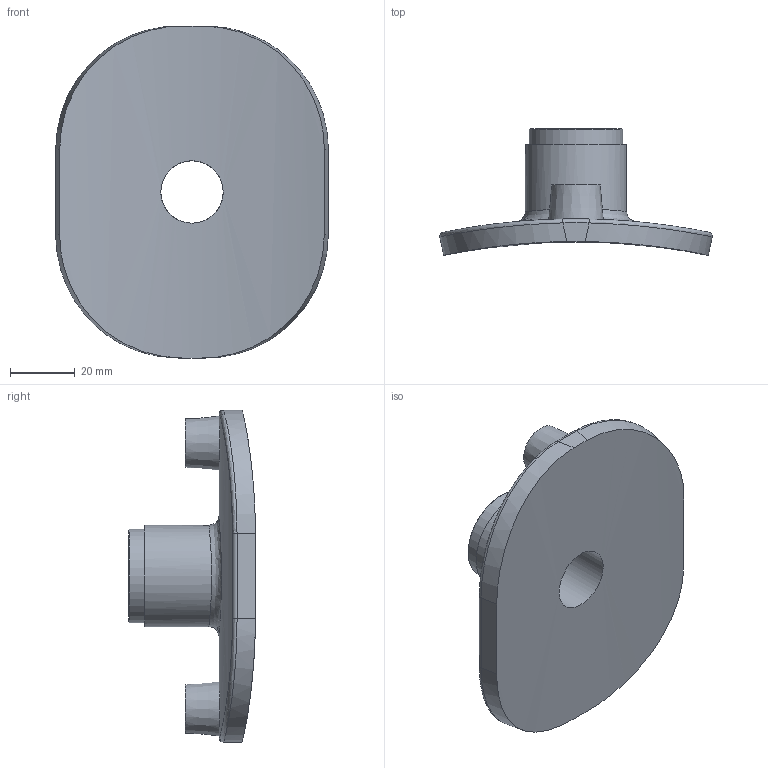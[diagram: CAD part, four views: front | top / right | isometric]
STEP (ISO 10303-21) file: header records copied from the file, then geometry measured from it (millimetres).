
FILE_DESCRIPTION(/* description */ ('PLASSON SENSOR ADAPTOR WITH STAINLESS STEEL THREAD 4''''16''''IPSx3/4'''''),/* implementation_level */ '2;1');
FILE_NAME(/* name */ 'C:\Dropbox\KIMPROJECTS-Inventor 2019\99-16-3568-Processing Inch\ASTM ElectroFusion 2021\5938S\5938S3400007.ipt.stp',/* time_stamp */ '2021-08-30T09:52:49+03:00',/* author */ ('Кирилл'),/* organization */ (''),/* preprocessor_version */ 'ST-DEVELOPER v17.2',/* originating_system */ 'Autodesk Inventor 2019',/* authorisation */ '');
FILE_SCHEMA (('AUTOMOTIVE_DESIGN { 1 0 10303 214 3 1 1 }'));
Length unit declared in the file: inch
Products named in the file (1): 5938S3400007
Bounding box: 84.39 x 39.25 x 102.87 mm (x, y, z)
Volume: 63606.8 mm3; surface area: 23050.4 mm2
Topology: 1 solids, 1 shells, 41 faces, 88 edges, 58 vertices
Faces by surface type: cylinder 17, plane 12, cone 5, bspline 5, torus 2
Full cylindrical faces by diameter (mm): 4 x2, 10 x2, 19.294 x1, 24.117 x1, 28.94 x1, 31.352 x1
Entity records: 1672 total; most frequent: CARTESIAN_POINT 743, ORIENTED_EDGE 178, DIRECTION 178, EDGE_CURVE 89, AXIS2_PLACEMENT_3D 75, VERTEX_POINT 59, EDGE_LOOP 52, FACE_OUTER_BOUND 41
